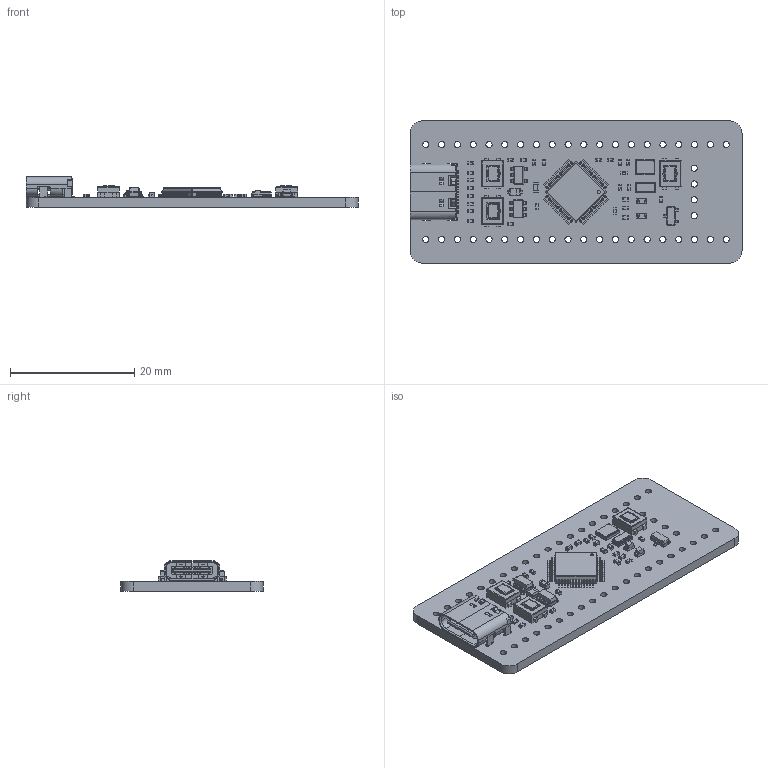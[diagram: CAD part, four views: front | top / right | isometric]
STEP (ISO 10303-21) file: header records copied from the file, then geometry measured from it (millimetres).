
FILE_DESCRIPTION(('KiCad electronic assembly'),'2;1');
FILE_NAME('KAmod-BluePill+.step','2024-10-15T12:27:27',('Pcbnew'),( 'Kicad'),'Open CASCADE STEP processor 7.8','KiCad to STEP converter' ,'Unknown');
FILE_SCHEMA(('AUTOMOTIVE_DESIGN { 1 0 10303 214 1 1 1 1 }'));
Length unit declared in the file: millimetre
Products named in the file (28): KAmod-BluePill+ 1; C_0402_1005Metric; R_0402_1005Metric; Crystal_SMD_SeikoEpson_TSX3225-4Pin_3.2x2.5mm; D_SOD-323; D_SOD_323; LQFP-48_7x7mm_P0.5mm; LQFP_48_7x7mm_P05mm; LED_0603_1608Metric; USB_C_Receptacle_GCT_USB4105-xx-A_16P_TopMnt_Horizontal; USB_C_Receptacle_16P_TopMnt_Horizontal_GCT_USB4105-xx-A; Crystal_SMD_3215-2Pin_3.2x1.5mm; SOT-23-5; SOT_23_5; SOT-23-6; SOT_23_6; SOT-23; SOT_23; SW_SPST_EVQP2; L_0603_1608Metric; _autosave-KAmod-BluePill+_PCB
Assembly tree (54 placements, depth 3):
  KAmod-BluePill+ 1
    C_0402_1005Metric  x14
      C_0402_1005Metric
    R_0402_1005Metric  x12
      R_0402_1005Metric
    Crystal_SMD_SeikoEpson_TSX3225-4Pin_3.2x2.5mm
      Crystal_SMD_SeikoEpson_TSX3225-4Pin_3.2x2.5mm
    D_SOD-323
      D_SOD_323
    LQFP-48_7x7mm_P0.5mm
      LQFP_48_7x7mm_P05mm
    LED_0603_1608Metric  x2
      LED_0603_1608Metric
    USB_C_Receptacle_GCT_USB4105-xx-A_16P_TopMnt_Horizontal
      USB_C_Receptacle_16P_TopMnt_Horizontal_GCT_USB4105-xx-A
    Crystal_SMD_3215-2Pin_3.2x1.5mm
      Crystal_SMD_3215-2Pin_3.2x1.5mm
    SOT-23-5
      SOT_23_5
    SOT-23-6
      SOT_23_6
    SOT-23
      SOT_23
    SW_SPST_EVQP2  x3
      SW_SPST_EVQP2
    L_0603_1608Metric
      L_0603_1608Metric
    _autosave-KAmod-BluePill+_PCB
Bounding box: 53.34 x 22.86 x 4.96 mm (x, y, z)
Volume: 2182.2 mm3; surface area: 3976.4 mm2
Topology: 76 solids, 76 shells, 3089 faces, 7936 edges, 5034 vertices
Faces by surface type: plane 1821, cylinder 819, bspline 405, torus 36, cone 8
Full cylindrical faces by diameter (mm): 0.5 x3, 0.65 x2, 1 x44
Entity records: 85945 total; most frequent: CARTESIAN_POINT 16166, ORIENTED_EDGE 11542, DIRECTION 10651, EDGE_CURVE 5771, LINE 4213, VECTOR 4213, VERTEX_POINT 3624, AXIS2_PLACEMENT_3D 3219
